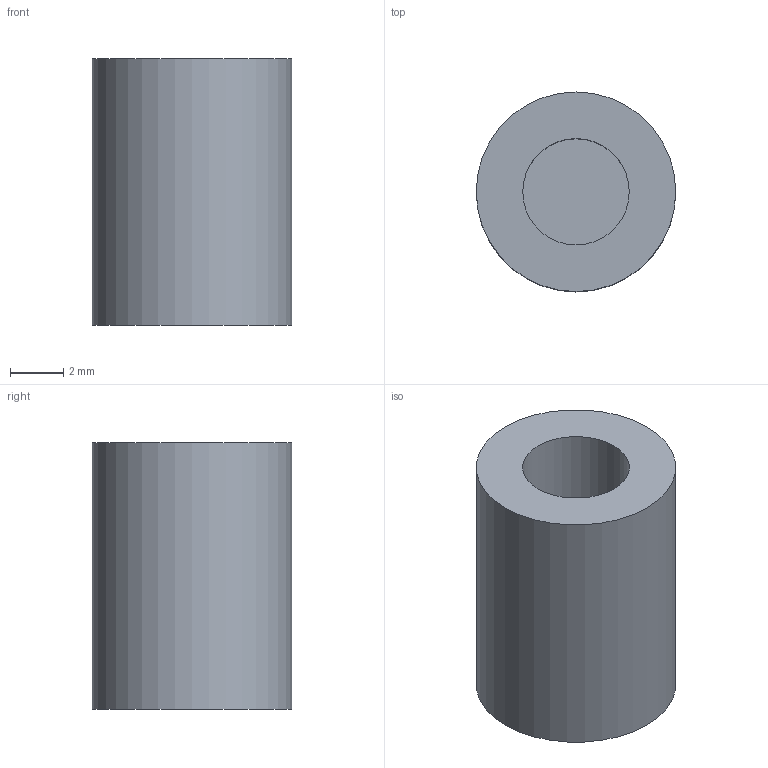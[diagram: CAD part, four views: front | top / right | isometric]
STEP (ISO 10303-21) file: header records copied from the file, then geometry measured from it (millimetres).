
FILE_DESCRIPTION(('Open CASCADE Model'),'2;1');
FILE_NAME('Open CASCADE Shape Model','2026-09-13T22:06:44',('Author'),( 'Open CASCADE'),'Open CASCADE STEP processor 7.9','Open CASCADE 7.9' ,'Unknown');
FILE_SCHEMA(('AUTOMOTIVE_DESIGN { 1 0 10303 214 1 1 1 1 }'));
Length unit declared in the file: millimetre
Products named in the file (1): Open CASCADE STEP translator 7.9 4
Bounding box: 7.5 x 7.5 x 10 mm (x, y, z)
Volume: 361.4 mm3; surface area: 404.4 mm2
Topology: 1 solids, 1 shells, 5 faces, 6 edges, 4 vertices
Faces by surface type: plane 3, cylinder 2
Full cylindrical faces by diameter (mm): 4 x1, 7.5 x1
Entity records: 195 total; most frequent: CARTESIAN_POINT 34, DIRECTION 33, ORIENTED_EDGE 12, PCURVE 12, DEFINITIONAL_REPRESENTATION 12, AXIS2_PLACEMENT_3D 10, LINE 10, VECTOR 10
